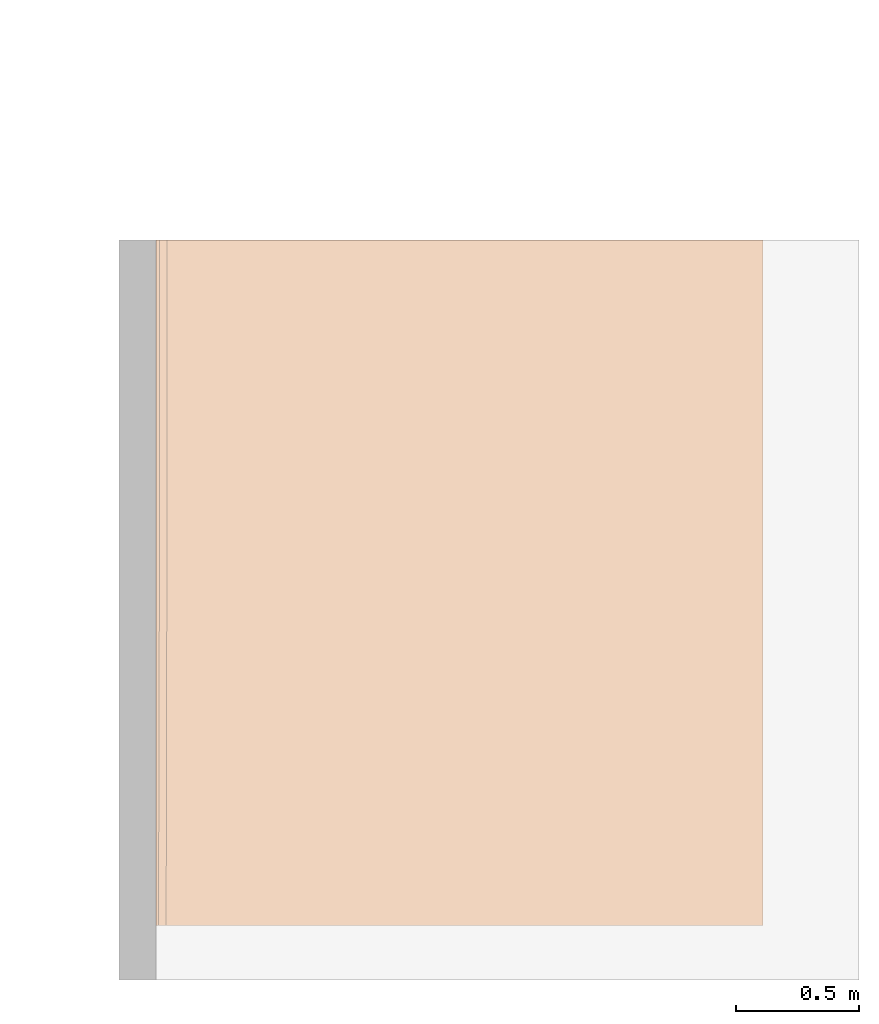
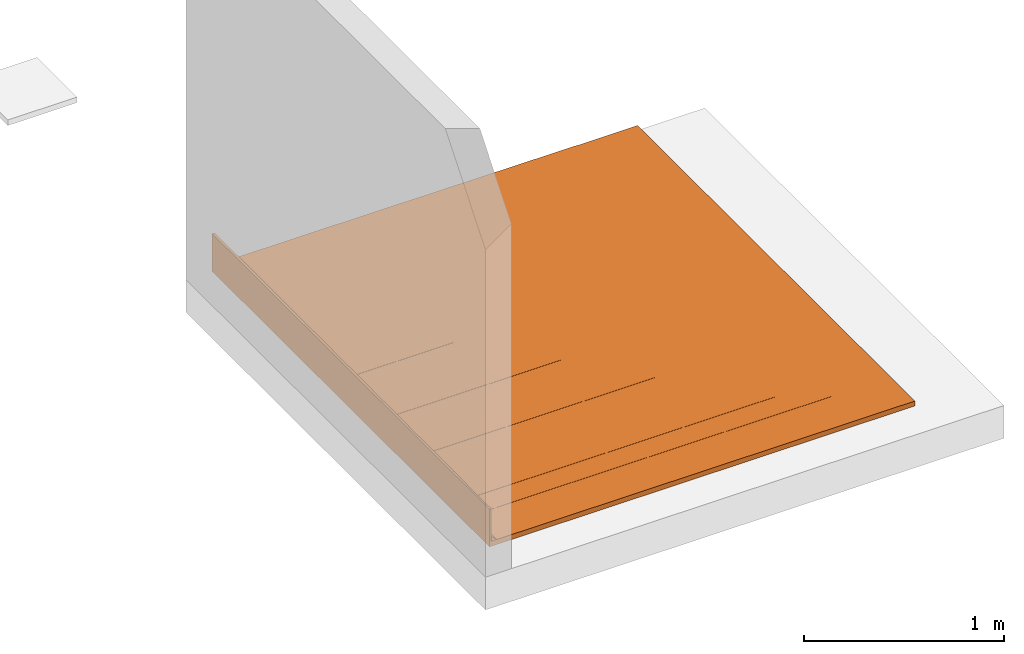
# One storey, part 2 of 2: 1 proxy.
"""IFC2X3 building model written with IfcOpenShell, lengths in metres."""

from ifc_helpers import new_model, entity, si_unit, converted_unit, derived_unit, direction, frame, frame_2d, origin, place, context, subcontext, project, spatial, polyline, rectangle, outline, extrude, source, transform, mapped, material, material_list, type_object, type_shapes, element, save


model = new_model("IFC2X3")

# Units and contexts
model_context = context("Model", 3, precision=1e-05, world=origin(), true_north=direction((6.123031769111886e-17, 1.0)))
body_context = subcontext(model_context, "Body", "Model", "MODEL_VIEW")
ifc_project = project(units=[si_unit("LENGTHUNIT", "METRE"), si_unit("AREAUNIT", "SQUARE_METRE"), si_unit("VOLUMEUNIT", "CUBIC_METRE"), converted_unit("PLANEANGLEUNIT", "DEGREE", entity("IfcRatioMeasure", 0.017453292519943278), si_unit("PLANEANGLEUNIT", "RADIAN"), dimensions=[0, 0, 0, 0, 0, 0, 0]), si_unit("MASSUNIT", "GRAM", prefix="KILO"), derived_unit("MASSDENSITYUNIT", [(si_unit("MASSUNIT", "GRAM", prefix="KILO"), 1), (si_unit("LENGTHUNIT", "METRE"), -3)]), derived_unit("IONCONCENTRATIONUNIT", [(si_unit("MASSUNIT", "GRAM", prefix="KILO"), 1), (si_unit("LENGTHUNIT", "METRE"), -3)]), derived_unit("MOMENTOFINERTIAUNIT", [(si_unit("LENGTHUNIT", "METRE"), 4)]), si_unit("TIMEUNIT", "SECOND"), si_unit("FREQUENCYUNIT", "HERTZ"), si_unit("THERMODYNAMICTEMPERATUREUNIT", "DEGREE_CELSIUS"), derived_unit("THERMALTRANSMITTANCEUNIT", [(si_unit("MASSUNIT", "GRAM", prefix="KILO"), 1), (si_unit("THERMODYNAMICTEMPERATUREUNIT", "KELVIN"), -1), (si_unit("TIMEUNIT", "SECOND"), -3)]), derived_unit("THERMALCONDUCTANCEUNIT", [(si_unit("MASSUNIT", "GRAM", prefix="KILO"), 1), (si_unit("THERMODYNAMICTEMPERATUREUNIT", "KELVIN"), -1), (si_unit("TIMEUNIT", "SECOND"), -3), (si_unit("LENGTHUNIT", "METRE"), 1)]), derived_unit("VOLUMETRICFLOWRATEUNIT", [(si_unit("LENGTHUNIT", "METRE"), 3), (si_unit("TIMEUNIT", "SECOND"), -1)]), derived_unit("MASSFLOWRATEUNIT", [(si_unit("MASSUNIT", "GRAM", prefix="KILO"), 1), (si_unit("TIMEUNIT", "SECOND"), -1)]), derived_unit("ROTATIONALFREQUENCYUNIT", [(si_unit("TIMEUNIT", "SECOND"), -1)]), si_unit("ELECTRICCURRENTUNIT", "AMPERE"), si_unit("ELECTRICVOLTAGEUNIT", "VOLT"), si_unit("POWERUNIT", "WATT"), si_unit("FORCEUNIT", "NEWTON", prefix="KILO"), si_unit("ILLUMINANCEUNIT", "LUX"), si_unit("LUMINOUSFLUXUNIT", "LUMEN"), si_unit("LUMINOUSINTENSITYUNIT", "CANDELA"), derived_unit("USERDEFINED", [(si_unit("MASSUNIT", "GRAM", prefix="KILO"), -1), (si_unit("LENGTHUNIT", "METRE"), -2), (si_unit("TIMEUNIT", "SECOND"), 3), (si_unit("LUMINOUSFLUXUNIT", "LUMEN"), 1)]), derived_unit("USERDEFINED", [(si_unit("MASSUNIT", "GRAM", prefix="KILO"), 1), (si_unit("TIMEUNIT", "SECOND"), -3), (si_unit("LENGTHUNIT", "METRE"), 3), (si_unit("ELECTRICCURRENTUNIT", "AMPERE"), -2)]), derived_unit("SOUNDPOWERUNIT", [(si_unit("MASSUNIT", "GRAM", prefix="KILO"), 1), (si_unit("TIMEUNIT", "SECOND"), -3), (si_unit("LENGTHUNIT", "METRE"), 2)]), derived_unit("SOUNDPRESSUREUNIT", [(si_unit("MASSUNIT", "GRAM", prefix="KILO"), 1), (si_unit("LENGTHUNIT", "METRE"), -1), (si_unit("TIMEUNIT", "SECOND"), -2)]), derived_unit("LINEARVELOCITYUNIT", [(si_unit("LENGTHUNIT", "METRE"), 1), (si_unit("TIMEUNIT", "SECOND"), -1)]), si_unit("PRESSUREUNIT", "PASCAL"), derived_unit("USERDEFINED", [(si_unit("MASSUNIT", "GRAM", prefix="KILO"), 1), (si_unit("LENGTHUNIT", "METRE"), -2), (si_unit("TIMEUNIT", "SECOND"), -2)]), derived_unit("LINEARFORCEUNIT", [(si_unit("MASSUNIT", "GRAM", prefix="KILO"), 1), (si_unit("TIMEUNIT", "SECOND"), -2)]), derived_unit("PLANARFORCEUNIT", [(si_unit("MASSUNIT", "GRAM", prefix="KILO"), 1), (si_unit("LENGTHUNIT", "METRE"), -1), (si_unit("TIMEUNIT", "SECOND"), -2)]), derived_unit("SPECIFICHEATCAPACITYUNIT", [(si_unit("THERMODYNAMICTEMPERATUREUNIT", "KELVIN"), -1), (si_unit("LENGTHUNIT", "METRE"), 2), (si_unit("TIMEUNIT", "SECOND"), -2)]), derived_unit("HEATINGVALUEUNIT", [(si_unit("LENGTHUNIT", "METRE"), 2), (si_unit("TIMEUNIT", "SECOND"), -2)]), derived_unit("VAPORPERMEABILITYUNIT", [(si_unit("LENGTHUNIT", "METRE"), -1), (si_unit("TIMEUNIT", "SECOND"), 1)]), derived_unit("DYNAMICVISCOSITYUNIT", [(si_unit("MASSUNIT", "GRAM", prefix="KILO"), 1), (si_unit("TIMEUNIT", "SECOND"), -1), (si_unit("LENGTHUNIT", "METRE"), -1)]), derived_unit("THERMALEXPANSIONCOEFFICIENTUNIT", [(si_unit("THERMODYNAMICTEMPERATUREUNIT", "KELVIN"), -1)]), derived_unit("MODULUSOFELASTICITYUNIT", [(si_unit("MASSUNIT", "GRAM", prefix="KILO"), 1), (si_unit("LENGTHUNIT", "METRE"), -1), (si_unit("TIMEUNIT", "SECOND"), -2)]), derived_unit("ISOTHERMALMOISTURECAPACITYUNIT", [(si_unit("LENGTHUNIT", "METRE"), 3), (si_unit("MASSUNIT", "GRAM", prefix="KILO"), -1)]), derived_unit("MOISTUREDIFFUSIVITYUNIT", [(si_unit("TIMEUNIT", "SECOND"), -1), (si_unit("LENGTHUNIT", "METRE"), 2)])], contexts=[model_context])

# Site, building, storey
site_placement = place(None, origin())
site = spatial("IfcSite", under=ifc_project, at=site_placement, Name="Default", CompositionType="ELEMENT")
building_placement = place(site_placement, origin())
building = spatial("IfcBuilding", under=site, at=building_placement, CompositionType="ELEMENT")
storey_placement = place(building_placement, frame((0.0, 0.0, -0.0025237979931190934)))
storey = spatial("IfcBuildingStorey", under=building, at=storey_placement, Name="ARQ Térreo", CompositionType="ELEMENT", Elevation=-0.0025237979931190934)

# Proxy
ifc_material_1 = material(Name="#argamassa")
ifc_material_2 = material(Name="#Vulkem 346")
ifc_material_3 = material(Name="#Vulkem 345(1)")
ifc_material_4 = material(Name="#Vulkem 345")
ifc_material_5 = material(Name="#Vulkem 350NF")
ifc_material_6 = material(Name="#Selante")
ifc_material_7 = material(Name="#Vulkem 171 Primer")
ifc_material_list = material_list([ifc_material_1, ifc_material_2, ifc_material_3, ifc_material_4, ifc_material_5, ifc_material_6, ifc_material_7])
building_element_proxy_type = type_object("IfcBuildingElementProxyType", Name="IMPER:IMPER", PredefinedType="NOTDEFINED", material=ifc_material_list)
shared_shape = source(origin(), body_context, "Body", "SweptSolid", [
    extrude(rectangle(XDim=2.780000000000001, YDim=0.010000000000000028, at=frame_2d((-3.3306690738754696e-16, 0.0), x_axis=(1.0, 0.0))), frame((-0.3469704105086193, -1.244129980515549, -0.0025237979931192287), z_axis=(0.0, 0.0, 1.0), x_axis=(0.0, -1.0, 0.0)), (0.0, 0.0, 1.0), 0.22999999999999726),
    extrude(outline(polyline([(-0.027059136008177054, -0.18264141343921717), (0.13928400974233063, -0.18264141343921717), (0.1392840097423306, -0.1816414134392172), (-0.02664492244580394, -0.1816414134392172), (-0.055715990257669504, -0.15257034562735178), (-0.055715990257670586, 0.5170602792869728), (-0.056715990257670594, 0.5170602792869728), (-0.05671599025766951, -0.15298455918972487), (-0.027059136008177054, -0.18264141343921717)])), frame((-0.15532899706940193, -1.0409682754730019, 0.0881921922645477), z_axis=(0.0, 1.0, 0.0), x_axis=(0.0, 0.0, 1.0)), (0.0, 0.0, 1.0), 1.1868382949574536),
    extrude(outline(polyline([(-0.026869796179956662, -0.28062491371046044), (0.13988756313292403, -0.28062491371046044), (0.13988756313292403, -0.2796249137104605), (-0.02645558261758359, -0.2796249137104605), (-0.05611243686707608, -0.24996805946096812), (-0.05611243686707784, 0.8104249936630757), (-0.057112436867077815, 0.8104249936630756), (-0.05711243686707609, -0.25038227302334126), (-0.026869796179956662, -0.28062491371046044)])), frame((-0.058345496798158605, -1.4417276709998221, 0.08758863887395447), z_axis=(0.0, 1.0, 0.0), x_axis=(0.0, 0.0, 1.0)), (0.0, 0.0, 1.0), 1.587597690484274),
    extrude(outline(polyline([(-0.026680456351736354, -0.36378191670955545), (0.14049111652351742, -0.36378191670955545), (0.14049111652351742, -0.3627819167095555), (-0.02626624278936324, -0.3627819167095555), (-0.05650888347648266, -0.33253927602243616), (-0.056508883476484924, 1.0593102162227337), (-0.05750888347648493, 1.0593102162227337), (-0.05750888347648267, -0.33295348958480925), (-0.026680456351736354, -0.36378191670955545)])), frame((0.023811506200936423, -1.8083727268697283, 0.08698508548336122), z_axis=(0.0, 1.0, 0.0), x_axis=(0.0, 0.0, 1.0)), (0.0, 0.0, 1.0), 1.95424274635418),
    extrude(outline(polyline([(0.05690533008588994, -1.386094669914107), (0.05790533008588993, -1.386094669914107), (0.05790533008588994, 0.44149111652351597), (0.026491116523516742, 0.4729053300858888), (-0.1410946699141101, 0.4729053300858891), (-0.1410946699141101, 0.47190533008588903), (0.026076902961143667, 0.47190533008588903), (0.05690533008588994, 0.4410769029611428), (0.05690533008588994, -1.386094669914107)])), frame((0.13193491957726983, -2.254371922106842, 0.08638153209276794), z_axis=(0.0, 1.0, 0.0), x_axis=(0.0, 0.0, -1.0)), (0.0, 0.0, 1.0), 2.4002419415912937),
    extrude(outline(polyline([(-0.010000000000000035, -0.009999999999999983), (0.020000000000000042, -0.009999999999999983), (-0.01, 0.019999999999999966), (-0.010000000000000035, -0.009999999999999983)])), frame((-0.330970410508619, -2.6341299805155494, 0.03847620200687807), z_axis=(0.0, 1.0, 0.0), x_axis=(0.0, 0.0, 1.0)), (0.0, 0.0, 1.0), 2.780000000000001),
    extrude(outline(polyline([(-1.5034004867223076, -0.062059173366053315), (0.6082430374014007, -0.062059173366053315), (0.608243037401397, 0.13794082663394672), (0.6072430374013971, 0.1379408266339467), (0.6072430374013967, -0.02964495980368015), (0.5758288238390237, -0.061059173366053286), (-1.5034004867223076, -0.06105917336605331), (-1.5034004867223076, -0.062059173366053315)]), holes=[polyline([(0.6072430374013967, -0.03105917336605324), (0.6072430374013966, -0.06105917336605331), (0.5772430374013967, -0.06105917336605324), (0.6072430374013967, -0.03105917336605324)])]), frame((0.2662726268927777, -2.3911469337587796, 0.08953537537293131), z_axis=(0.0, 1.0, 0.0), x_axis=(-1.0, 0.0, 0.0)), (0.0, 0.0, 1.0), 2.5370169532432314),
    extrude(rectangle(XDim=2.780000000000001, YDim=2.451585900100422, at=frame_2d((-3.3306690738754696e-16, -1.1102230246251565e-16), x_axis=(1.0, 0.0))), frame((0.8838225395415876, -1.244129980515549, -0.00252379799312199), z_axis=(0.0, 0.0, 1.0), x_axis=(0.0, -1.0, 0.0)), (0.0, 0.0, 1.0), 0.03),
])
type_shapes(building_element_proxy_type, [shared_shape])
proxy_placement = place(storey_placement, frame((0.0, 0.0, 0.0025237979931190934)))
element("IfcBuildingElementProxy", 1, at=proxy_placement, inside=storey, type_object=building_element_proxy_type, material=ifc_material_list, Name="IMPER:IMPER:IMPER : IMPER:IMPER", ObjectType="IMPER:IMPER:IMPER : IMPER:IMPER", context=body_context, shape_type="MappedRepresentation", body=[
    mapped(shared_shape, transform((0.0, 0.0, 0.0), scale=1.0)),
])

save(model, "model.ifc")
